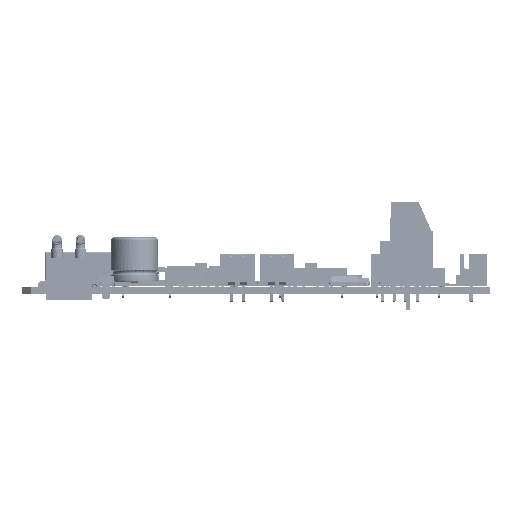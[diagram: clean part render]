
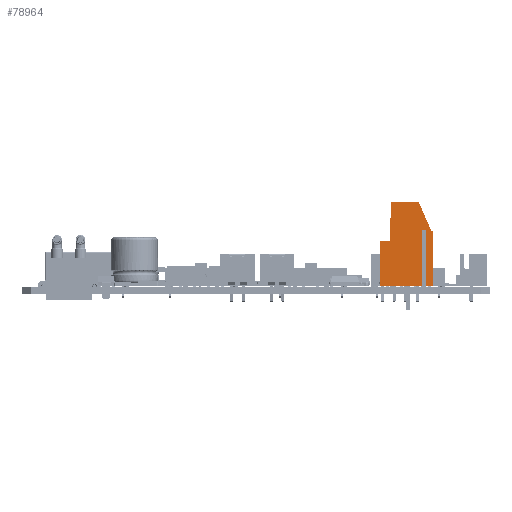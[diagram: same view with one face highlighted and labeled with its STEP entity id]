
A CAD part, front view. The second image highlights one B-rep face of the part: STEP entity #78964.
In plain terms, the highlighted planar face has unit normal (0, -1, 0) as drawn and (-1, 0, 0) by its records, which use the part's own axes.
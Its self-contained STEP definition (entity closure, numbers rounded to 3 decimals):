
#78796 = EDGE_CURVE('',#78797,#78799,#78801,.T.);
#78797 = VERTEX_POINT('',#78798);
#78798 = CARTESIAN_POINT('',(-2.54,-5.283,0.));
#78799 = VERTEX_POINT('',#78800);
#78800 = CARTESIAN_POINT('',(-2.54,-3.562,0.));
#78801 = LINE('',#78802,#78803);
#78802 = CARTESIAN_POINT('',(-2.54,-5.283,0.));
#78803 = VECTOR('',#78804,1.);
#78804 = DIRECTION('',(0.,1.,0.));
#78855 = VERTEX_POINT('',#78856);
#78856 = CARTESIAN_POINT('',(-2.54,5.917,0.));
#78862 = EDGE_CURVE('',#78863,#78855,#78865,.T.);
#78863 = VERTEX_POINT('',#78864);
#78864 = CARTESIAN_POINT('',(-2.54,-3.205,0.));
#78865 = LINE('',#78866,#78867);
#78866 = CARTESIAN_POINT('',(-2.54,-5.283,0.));
#78867 = VECTOR('',#78868,1.);
#78868 = DIRECTION('',(0.,1.,0.));
#78964 = ADVANCED_FACE('',(#78965),#79045,.F.);
#78965 = FACE_BOUND('',#78966,.F.);
#78966 = EDGE_LOOP('',(#78967,#78977,#78985,#78991,#78992,#79000,#79008,
    #79014,#79015,#79023,#79031,#79039));
#78967 = ORIENTED_EDGE('',*,*,#78968,.T.);
#78968 = EDGE_CURVE('',#78969,#78971,#78973,.T.);
#78969 = VERTEX_POINT('',#78970);
#78970 = CARTESIAN_POINT('',(-2.54,-2.283,18.));
#78971 = VERTEX_POINT('',#78972);
#78972 = CARTESIAN_POINT('',(-2.54,-4.983,11.8));
#78973 = LINE('',#78974,#78975);
#78974 = CARTESIAN_POINT('',(-2.54,-2.283,18.));
#78975 = VECTOR('',#78976,1.);
#78976 = DIRECTION('',(0.,-0.399,-0.917));
#78977 = ORIENTED_EDGE('',*,*,#78978,.T.);
#78978 = EDGE_CURVE('',#78971,#78979,#78981,.T.);
#78979 = VERTEX_POINT('',#78980);
#78980 = CARTESIAN_POINT('',(-2.54,-5.283,11.8));
#78981 = LINE('',#78982,#78983);
#78982 = CARTESIAN_POINT('',(-2.54,-4.983,11.8));
#78983 = VECTOR('',#78984,1.);
#78984 = DIRECTION('',(0.,-1.,0.));
#78985 = ORIENTED_EDGE('',*,*,#78986,.T.);
#78986 = EDGE_CURVE('',#78979,#78797,#78987,.T.);
#78987 = LINE('',#78988,#78989);
#78988 = CARTESIAN_POINT('',(-2.54,-5.283,18.));
#78989 = VECTOR('',#78990,1.);
#78990 = DIRECTION('',(0.,0.,-1.));
#78991 = ORIENTED_EDGE('',*,*,#78796,.T.);
#78992 = ORIENTED_EDGE('',*,*,#78993,.T.);
#78993 = EDGE_CURVE('',#78799,#78994,#78996,.T.);
#78994 = VERTEX_POINT('',#78995);
#78995 = CARTESIAN_POINT('',(-2.54,-3.562,12.));
#78996 = LINE('',#78997,#78998);
#78997 = CARTESIAN_POINT('',(-2.54,-3.562,0.));
#78998 = VECTOR('',#78999,1.);
#78999 = DIRECTION('',(0.,0.,1.));
#79000 = ORIENTED_EDGE('',*,*,#79001,.T.);
#79001 = EDGE_CURVE('',#78994,#79002,#79004,.T.);
#79002 = VERTEX_POINT('',#79003);
#79003 = CARTESIAN_POINT('',(-2.54,-3.205,12.));
#79004 = LINE('',#79005,#79006);
#79005 = CARTESIAN_POINT('',(-2.54,-3.562,12.));
#79006 = VECTOR('',#79007,1.);
#79007 = DIRECTION('',(0.,1.,0.));
#79008 = ORIENTED_EDGE('',*,*,#79009,.F.);
#79009 = EDGE_CURVE('',#78863,#79002,#79010,.T.);
#79010 = LINE('',#79011,#79012);
#79011 = CARTESIAN_POINT('',(-2.54,-3.205,0.));
#79012 = VECTOR('',#79013,1.);
#79013 = DIRECTION('',(0.,0.,1.));
#79014 = ORIENTED_EDGE('',*,*,#78862,.T.);
#79015 = ORIENTED_EDGE('',*,*,#79016,.T.);
#79016 = EDGE_CURVE('',#78855,#79017,#79019,.T.);
#79017 = VERTEX_POINT('',#79018);
#79018 = CARTESIAN_POINT('',(-2.54,5.917,9.8));
#79019 = LINE('',#79020,#79021);
#79020 = CARTESIAN_POINT('',(-2.54,5.917,0.));
#79021 = VECTOR('',#79022,1.);
#79022 = DIRECTION('',(0.,0.,1.));
#79023 = ORIENTED_EDGE('',*,*,#79024,.F.);
#79024 = EDGE_CURVE('',#79025,#79017,#79027,.T.);
#79025 = VERTEX_POINT('',#79026);
#79026 = CARTESIAN_POINT('',(-2.54,3.92,9.8));
#79027 = LINE('',#79028,#79029);
#79028 = CARTESIAN_POINT('',(-2.54,3.92,9.8));
#79029 = VECTOR('',#79030,1.);
#79030 = DIRECTION('',(0.,1.,0.));
#79031 = ORIENTED_EDGE('',*,*,#79032,.F.);
#79032 = EDGE_CURVE('',#79033,#79025,#79035,.T.);
#79033 = VERTEX_POINT('',#79034);
#79034 = CARTESIAN_POINT('',(-2.54,3.644,18.));
#79035 = LINE('',#79036,#79037);
#79036 = CARTESIAN_POINT('',(-2.54,3.644,18.));
#79037 = VECTOR('',#79038,1.);
#79038 = DIRECTION('',(0.,0.034,-0.999));
#79039 = ORIENTED_EDGE('',*,*,#79040,.T.);
#79040 = EDGE_CURVE('',#79033,#78969,#79041,.T.);
#79041 = LINE('',#79042,#79043);
#79042 = CARTESIAN_POINT('',(-2.54,5.917,18.));
#79043 = VECTOR('',#79044,1.);
#79044 = DIRECTION('',(0.,-1.,0.));
#79045 = PLANE('',#79046);
#79046 = AXIS2_PLACEMENT_3D('',#79047,#79048,#79049);
#79047 = CARTESIAN_POINT('',(-2.54,0.317,9.));
#79048 = DIRECTION('',(1.,0.,0.));
#79049 = DIRECTION('',(-0.,0.,1.));
